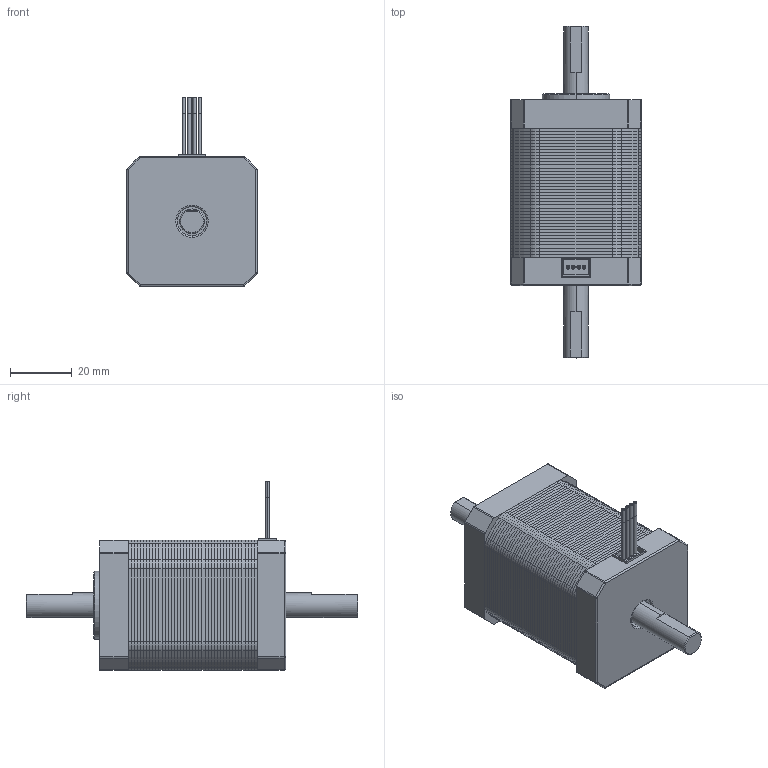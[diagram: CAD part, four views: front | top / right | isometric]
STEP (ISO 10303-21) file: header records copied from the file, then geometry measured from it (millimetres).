
FILE_DESCRIPTION (( 'STEP AP214' ), '1' );
FILE_NAME ('NEMA17_60mm_8mm_shaft_DS.STEP', '2020-11-14T13:29:27', ( 'Moofasta' ), ( '' ), 'SwSTEP 2.0', 'SolidWorks 2020', '' );
FILE_SCHEMA (( 'AUTOMOTIVE_DESIGN' ));
Length unit declared in the file: millimetre
Products named in the file (1): NEMA17_60mm_8mm_shaft_DS
Bounding box: 42.3 x 107.9 x 61.3 mm (x, y, z)
Volume: 105807.8 mm3; surface area: 160346.7 mm2
Topology: 53 solids, 53 shells, 920 faces, 2380 edges, 1567 vertices
Faces by surface type: cylinder 578, plane 317, cone 15, sphere 8, torus 2
Entity records: 37908 total; most frequent: DIRECTION 5389, CARTESIAN_POINT 4872, ORIENTED_EDGE 4744, EDGE_CURVE 2372, AXIS2_PLACEMENT_3D 2100, VERTEX_POINT 1567, VECTOR 1189, LINE 1189
